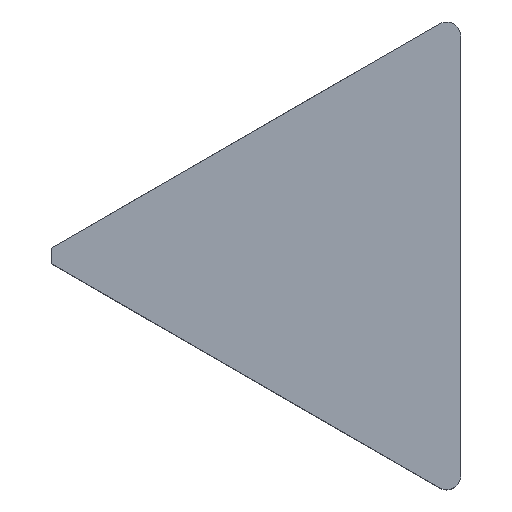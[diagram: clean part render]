
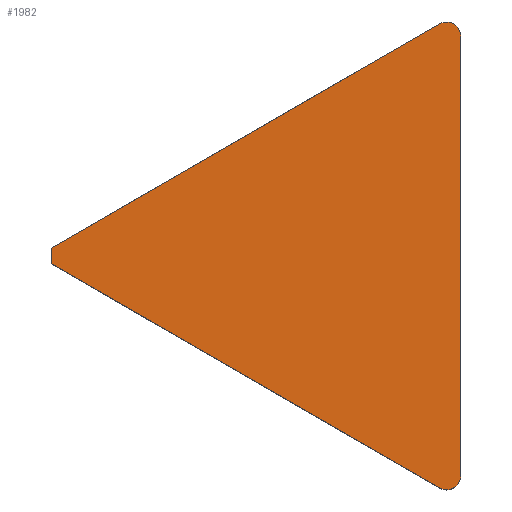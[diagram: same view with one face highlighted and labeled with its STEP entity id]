
A CAD part, top view. The second image highlights one B-rep face of the part: STEP entity #1982.
In plain terms, the highlighted planar face has unit normal (0, 0, 1).
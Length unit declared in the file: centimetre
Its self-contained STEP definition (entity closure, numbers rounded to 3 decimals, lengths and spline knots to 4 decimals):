
#636=VERTEX_POINT('',#4109);
#637=VERTEX_POINT('',#4110);
#649=VERTEX_POINT('',#4139);
#723=VERTEX_POINT('',#5533);
#724=VERTEX_POINT('',#5534);
#729=VERTEX_POINT('',#5545);
#875=EDGE_CURVE('',#636,#637,#2325,.T.);
#889=EDGE_CURVE('',#649,#636,#2337,.T.);
#994=EDGE_CURVE('',#723,#724,#2617,.T.);
#1001=EDGE_CURVE('',#724,#729,#2389,.T.);
#1011=EDGE_CURVE('',#729,#649,#2619,.T.);
#1039=EDGE_CURVE('',#637,#723,#2409,.T.);
#1595=ORIENTED_EDGE('',*,*,#875,.F.);
#1596=ORIENTED_EDGE('',*,*,#889,.F.);
#1597=ORIENTED_EDGE('',*,*,#1011,.F.);
#1598=ORIENTED_EDGE('',*,*,#1001,.F.);
#1599=ORIENTED_EDGE('',*,*,#994,.F.);
#1600=ORIENTED_EDGE('',*,*,#1039,.F.);
#1753=EDGE_LOOP('',(#1595,#1596,#1597,#1598,#1599,#1600));
#1872=FACE_BOUND('',#1753,.T.);
#1982=ADVANCED_FACE('',(#1872),#3550,.T.);
#2325=LINE('',#4108,#3401);
#2337=LINE('',#4140,#3413);
#2389=LINE('',#5544,#3465);
#2409=LINE('',#5609,#3485);
#2617=CIRCLE('',#3199,0.2);
#2619=CIRCLE('',#3202,0.2);
#3199=AXIS2_PLACEMENT_3D('',#5532,#6092,#6093);
#3202=AXIS2_PLACEMENT_3D('',#5568,#6110,#6111);
#3215=AXIS2_PLACEMENT_3D('',#5610,#6146,$);
#3401=VECTOR('',#5942,1.);
#3413=VECTOR('',#5954,1.);
#3465=VECTOR('',#6100,1.);
#3485=VECTOR('',#6145,1.);
#3550=PLANE('',#3215);
#4108=CARTESIAN_POINT('',(-3.8095,0.,1.));
#4109=CARTESIAN_POINT('',(-3.8095,-0.11,1.));
#4110=CARTESIAN_POINT('',(-3.8095,0.11,1.));
#4139=CARTESIAN_POINT('',(1.7,-3.2909,1.));
#4140=CARTESIAN_POINT('',(-4.,0.,1.));
#5532=CARTESIAN_POINT('',(1.8,3.1177,1.));
#5533=CARTESIAN_POINT('',(1.7,3.2909,1.));
#5534=CARTESIAN_POINT('',(2.,3.1177,1.));
#5544=CARTESIAN_POINT('',(2.,-3.4641,1.));
#5545=CARTESIAN_POINT('',(2.,-3.1177,1.));
#5568=CARTESIAN_POINT('',(1.8,-3.1177,1.));
#5609=CARTESIAN_POINT('',(2.,3.4641,1.));
#5610=CARTESIAN_POINT('',(0.,0.,1.));
#5942=DIRECTION('',(0.,1.,0.));
#5954=DIRECTION('',(-0.866,0.5,0.));
#6092=DIRECTION('',(0.,0.,-1.));
#6093=DIRECTION('',(0.1,0.173,0.));
#6100=DIRECTION('',(0.,-1.,0.));
#6110=DIRECTION('',(0.,0.,-1.));
#6111=DIRECTION('',(0.1,-0.173,0.));
#6145=DIRECTION('',(0.866,0.5,0.));
#6146=DIRECTION('',(0.,0.,1.));
